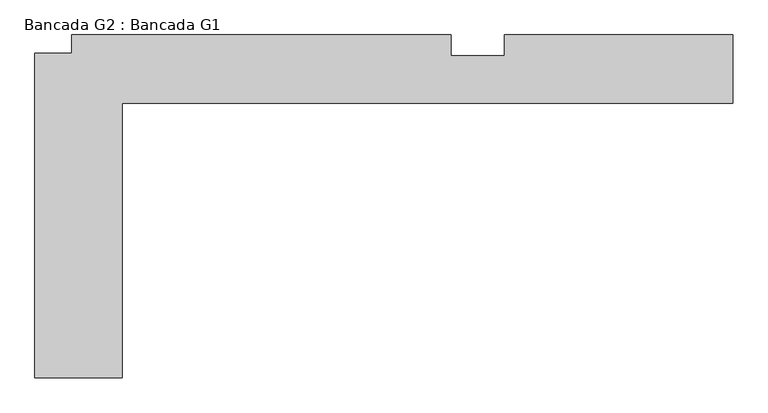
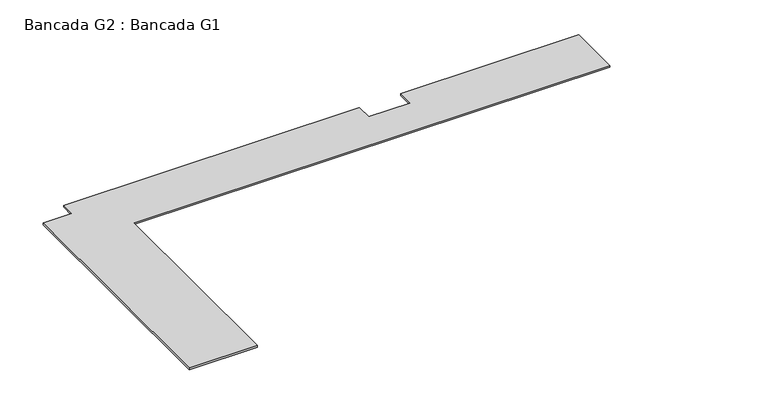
"""IFC4 building model written with IfcOpenShell, lengths in millimetres: furniture geometry, Bancada G2 : Bancada G1."""

from ifc_helpers import new_model, si_unit, frame, origin, place, context, project, spatial, polyline, outline, extrude, source, transform, mapped, element, save


def bancada_g2_bancada_g1_b57505dd(model_context):
    return source(origin(), model_context, "Body", "SweptSolid", [
        extrude(outline(polyline([(-4992.3834094, -3077.0637549), (-9802.3834094, -3077.0637549), (-9802.3834094, -5237.0637549), (-10492.3834094, -5237.0637549), (-10492.3834094, -2682.0637549), (-10202.3834094, -2682.0637549), (-10202.3834094, -2537.0637549), (-7212.3834094, -2537.0637549), (-7212.3834094, -2702.0637549), (-6792.3834094, -2702.0637549), (-6792.3834094, -2537.0637549), (-4992.3834094, -2537.0637549), (-4992.3834094, -3077.0637549)])), frame((0.0, 0.0, 480.0), z_axis=(0.0, 0.0, 1.0), x_axis=(1.0, 0.0, 0.0)), (0.0, 0.0, 1.0), 20.0),
    ])


if __name__ == "__main__":
    model = new_model("IFC4")
    model_context = context("Model", 3, world=origin())
    ifc_project = project(units=[si_unit("LENGTHUNIT", "METRE", prefix="MILLI")], contexts=[model_context])
    site = spatial("IfcSite", under=ifc_project)
    building = spatial("IfcBuilding", under=site)
    placement = place(None, origin())
    bancada_g2_bancada_g1_shape = bancada_g2_bancada_g1_b57505dd(model_context)
    element("IfcFurniture", 1, ObjectType="Bancada G2 : Bancada G1", at=placement, inside=building, context=model_context, shape_type="MappedRepresentation", body=[
        mapped(bancada_g2_bancada_g1_shape, transform((0.0, 0.0, 0.0), x_axis=(1.0, 0.0, 0.0), y_axis=(0.0, 1.0, 0.0), z_axis=(0.0, 0.0, 1.0))),
    ])
    save(model, "model.ifc")
